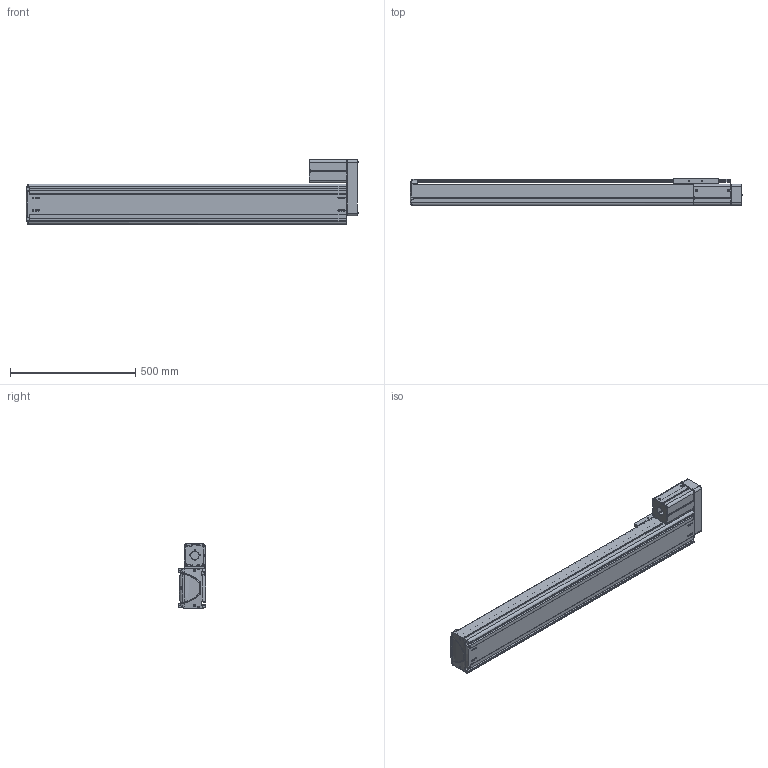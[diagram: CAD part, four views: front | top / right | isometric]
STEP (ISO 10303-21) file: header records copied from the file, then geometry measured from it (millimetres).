
FILE_DESCRIPTION((''),'2;1');
FILE_NAME('BE50F-UR-M_N-A0_IGS_PRT','2017-06-18T',(' '),(''),'PRO/ENGINEER BY PARAMETRIC TECHNOLOGY CORPORATION, 2015030','PRO/ENGINEER BY PARAMETRIC TECHNOLOGY CORPORATION, 2015030','');
FILE_SCHEMA(('CONFIG_CONTROL_DESIGN'));
Length unit declared in the file: millimetre
Products named in the file (1): BE50F-UR-M_N-A0_IGS_PRT
Bounding box: 1325.88 x 110 x 257 mm (x, y, z)
Volume: 5408277.7 mm3; surface area: 2234041.6 mm2
Topology: 6 solids, 136 shells, 2241 faces, 6132 edges, 4012 vertices
Faces by surface type: plane 1004, cylinder 967, cone 131, torus 59, bspline 48, sphere 32
Entity records: 74465 total; most frequent: CARTESIAN_POINT 17036, DIRECTION 12003, ORIENTED_EDGE 11684, EDGE_CURVE 6086, AXIS2_PLACEMENT_3D 4285, VERTEX_POINT 4006, VECTOR 3433, LINE 3433
